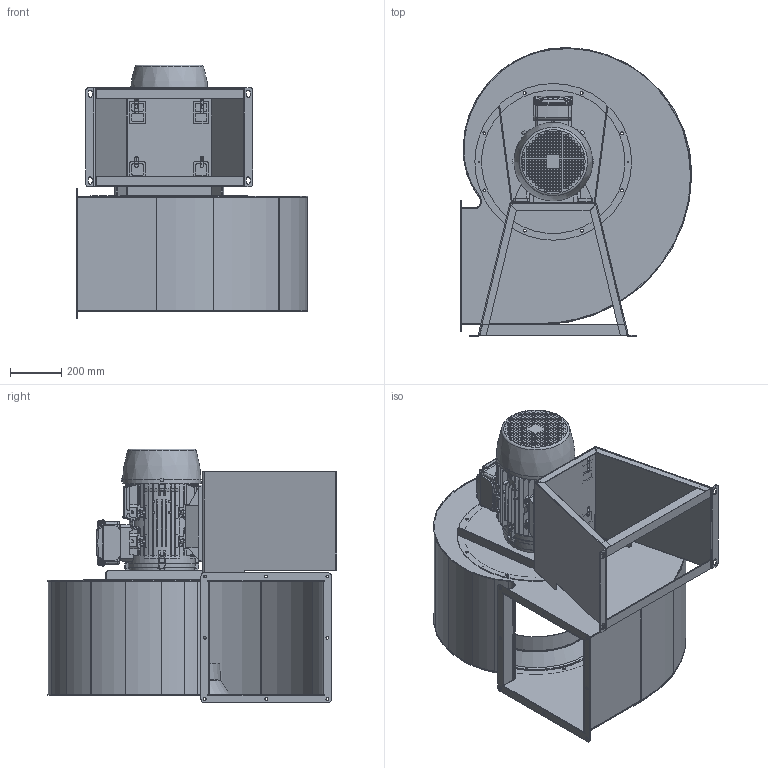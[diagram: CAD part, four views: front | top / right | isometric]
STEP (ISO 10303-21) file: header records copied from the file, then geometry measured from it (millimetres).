
FILE_DESCRIPTION((''),'2;1');
FILE_NAME('X:\CAD_3D\VENTILATORI DI SERIE\B\B55\B55 - 160 - RD270.stp','2016-10-24T17:01:00',('tecnico'),(''),'Autodesk Inventor 2012','Autodesk Inventor 2012','');
FILE_SCHEMA(('CONFIG_CONTROL_DESIGN'));
Length unit declared in the file: millimetre
Products named in the file (11): B55 - 160 - RD270; C1B55L_MIR1; FB550R1_MIR1; FP1B5520_MIR1; SQ1B550_MIR1; BO1B55_MIR1; D15808008_MIR1; SE1B550160_MIR; 160M_L_TOP_MIR10; AN140404573_MIR1; PT1354380_MIR
Assembly tree (13 placements, depth 3):
  B55 - 160 - RD270
    C1B55L_MIR1
      FB550R1_MIR1  x2
      FP1B5520_MIR1
      SQ1B550_MIR1
    BO1B55_MIR1
    D15808008_MIR1
    SE1B550160_MIR
    160M_L_TOP_MIR10
    AN140404573_MIR1  x2
    PT1354380_MIR  x2
Bounding box: 901 x 1124.97 x 987.65 mm (x, y, z)
Volume: 43635621.9 mm3; surface area: 9321109.2 mm2
Topology: 34 solids, 34 shells, 4307 faces, 11384 edges, 7485 vertices
Faces by surface type: plane 3165, cylinder 509, cone 320, bspline 222, torus 51, sphere 40
Full cylindrical faces by diameter (mm): 3.25 x4, 4 x1, 8 x15, 8.5 x4, 10 x4, 11 x20, 12 x8, 16 x4, 22 x4, 41.6 x1, 42 x1, 44.95 x1, 80 x1, 558 x2, 608 x1, 610 x1
Entity records: 139532 total; most frequent: CARTESIAN_POINT 35391, ORIENTED_EDGE 22082, DIRECTION 20204, EDGE_CURVE 11041, VECTOR 7892, LINE 7892, VERTEX_POINT 7338, AXIS2_PLACEMENT_3D 6156
